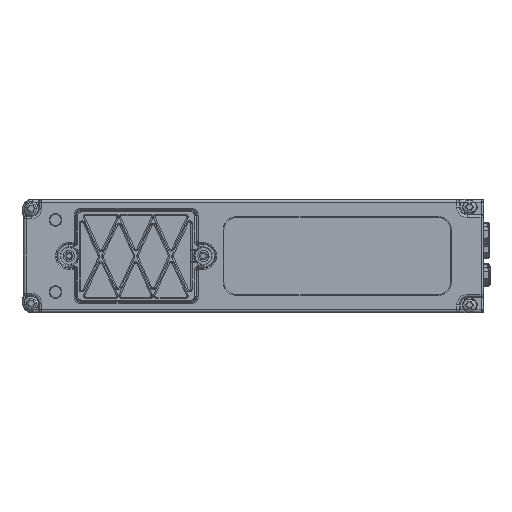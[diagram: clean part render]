
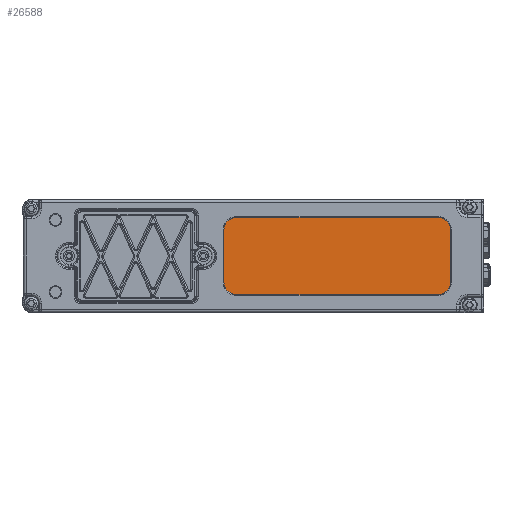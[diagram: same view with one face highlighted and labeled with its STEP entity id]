
A CAD part, front view. The second image highlights one B-rep face of the part: STEP entity #26588.
In plain terms, the highlighted planar face has unit normal (0, -1, 0).
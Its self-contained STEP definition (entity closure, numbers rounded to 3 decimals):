
#21785=FACE_OUTER_BOUND('',#35234,.T.);
#26588=ADVANCED_FACE('',(#21785),#28667,.F.);
#28667=PLANE('',#79173);
#31183=CIRCLE('',#79161,5.);
#31185=CIRCLE('',#79164,5.);
#31187=CIRCLE('',#79167,5.);
#31189=CIRCLE('',#79170,5.);
#35234=EDGE_LOOP('',(#48988,#48989,#48990,#48991,#48992,#48993,#48994,#48995));
#48988=ORIENTED_EDGE('',*,*,#65000,.T.);
#48989=ORIENTED_EDGE('',*,*,#64997,.T.);
#48990=ORIENTED_EDGE('',*,*,#64999,.T.);
#48991=ORIENTED_EDGE('',*,*,#64985,.T.);
#48992=ORIENTED_EDGE('',*,*,#65001,.F.);
#48993=ORIENTED_EDGE('',*,*,#64989,.T.);
#48994=ORIENTED_EDGE('',*,*,#65002,.F.);
#48995=ORIENTED_EDGE('',*,*,#64993,.T.);
#57405=VERTEX_POINT('',#118647);
#57407=VERTEX_POINT('',#118651);
#57409=VERTEX_POINT('',#118656);
#57411=VERTEX_POINT('',#118660);
#57413=VERTEX_POINT('',#118665);
#57415=VERTEX_POINT('',#118669);
#57417=VERTEX_POINT('',#118674);
#57419=VERTEX_POINT('',#118678);
#64985=EDGE_CURVE('',#57405,#57407,#31183,.T.);
#64989=EDGE_CURVE('',#57409,#57411,#31185,.T.);
#64993=EDGE_CURVE('',#57413,#57415,#31187,.T.);
#64997=EDGE_CURVE('',#57417,#57419,#31189,.T.);
#64999=EDGE_CURVE('',#57419,#57405,#69865,.T.);
#65000=EDGE_CURVE('',#57415,#57417,#69866,.T.);
#65001=EDGE_CURVE('',#57409,#57407,#69867,.T.);
#65002=EDGE_CURVE('',#57413,#57411,#69868,.T.);
#69865=LINE('',#118682,#73729);
#69866=LINE('',#118684,#73730);
#69867=LINE('',#118685,#73731);
#69868=LINE('',#118686,#73732);
#73729=VECTOR('',#93796,1.);
#73730=VECTOR('',#93799,1.);
#73731=VECTOR('',#93800,1.);
#73732=VECTOR('',#93801,1.);
#79161=AXIS2_PLACEMENT_3D('',#118652,#93767,#93768);
#79164=AXIS2_PLACEMENT_3D('',#118661,#93775,#93776);
#79167=AXIS2_PLACEMENT_3D('',#118670,#93783,#93784);
#79170=AXIS2_PLACEMENT_3D('',#118679,#93791,#93792);
#79173=AXIS2_PLACEMENT_3D('',#118687,#93802,#93803);
#93767=DIRECTION('',(0.,-1.,0.));
#93768=DIRECTION('',(1.,0.,0.));
#93775=DIRECTION('',(0.,-1.,0.));
#93776=DIRECTION('',(1.,0.,0.));
#93783=DIRECTION('',(0.,-1.,0.));
#93784=DIRECTION('',(1.,0.,0.));
#93791=DIRECTION('',(0.,-1.,0.));
#93792=DIRECTION('',(1.,0.,0.));
#93796=DIRECTION('',(1.,0.,0.));
#93799=DIRECTION('',(0.,0.,-1.));
#93800=DIRECTION('',(0.,0.,-1.));
#93801=DIRECTION('',(1.,0.,0.));
#93802=DIRECTION('',(0.,1.,0.));
#93803=DIRECTION('',(1.,0.,0.));
#118647=CARTESIAN_POINT('',(148.35,-439.2,-1.));
#118651=CARTESIAN_POINT('',(153.35,-439.2,4.));
#118652=CARTESIAN_POINT('',(148.35,-439.2,4.));
#118656=CARTESIAN_POINT('',(153.35,-439.2,24.));
#118660=CARTESIAN_POINT('',(148.35,-439.2,29.));
#118661=CARTESIAN_POINT('',(148.35,-439.2,24.));
#118665=CARTESIAN_POINT('',(70.35,-439.2,29.));
#118669=CARTESIAN_POINT('',(65.35,-439.2,24.));
#118670=CARTESIAN_POINT('',(70.35,-439.2,24.));
#118674=CARTESIAN_POINT('',(65.35,-439.2,4.));
#118678=CARTESIAN_POINT('',(70.35,-439.2,-1.));
#118679=CARTESIAN_POINT('',(70.35,-439.2,4.));
#118682=CARTESIAN_POINT('',(153.35,-439.2,-1.));
#118684=CARTESIAN_POINT('',(65.35,-439.2,-1.));
#118685=CARTESIAN_POINT('',(153.35,-439.2,-1.));
#118686=CARTESIAN_POINT('',(153.35,-439.2,29.));
#118687=CARTESIAN_POINT('',(153.35,-439.2,-1.));
